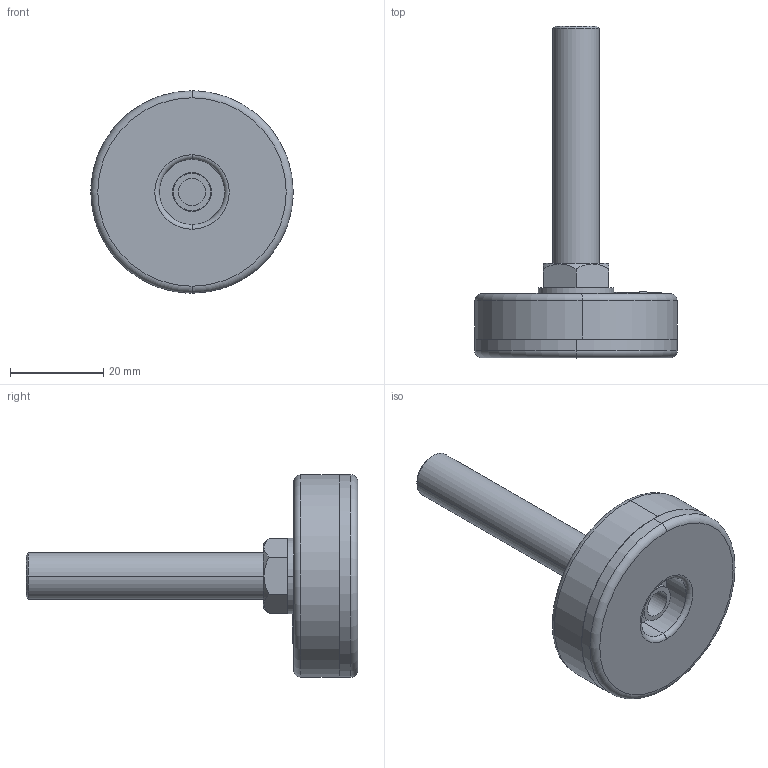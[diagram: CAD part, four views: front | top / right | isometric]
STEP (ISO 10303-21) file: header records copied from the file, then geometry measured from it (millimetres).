
FILE_DESCRIPTION (( 'STEP AP203' ), '1' );
FILE_NAME ('R-40-1051-TPU.STEP', '2020-09-11T02:23:12', ( '' ), ( '' ), 'SwSTEP 2.0', 'SolidWorks 2016', '' );
FILE_SCHEMA (( 'CONFIG_CONTROL_DESIGN' ));
Length unit declared in the file: millimetre
Products named in the file (4): 穩諉蹟裝M10炵蹈_M10X51; R-40-1051-TPU; S倰覃誹褐_40菁菜; S倰覃誹褐_40裔赽
Assembly tree (3 placements, depth 2):
  R-40-1051-TPU
    S倰覃誹褐_40菁菜
    S倰覃誹褐_40裔赽
    穩諉蹟裝M10炵蹈_M10X51
Bounding box: 43.5 x 71.3 x 43.5 mm (x, y, z)
Volume: 14522.5 mm3; surface area: 13853.2 mm2
Topology: 3 solids, 3 shells, 121 faces, 290 edges, 190 vertices
Faces by surface type: plane 69, cylinder 28, bspline 12, torus 8, cone 4
Entity records: 4790 total; most frequent: CARTESIAN_POINT 1559, DIRECTION 580, ORIENTED_EDGE 580, EDGE_CURVE 290, AXIS2_PLACEMENT_3D 207, VERTEX_POINT 190, LINE 166, VECTOR 166
